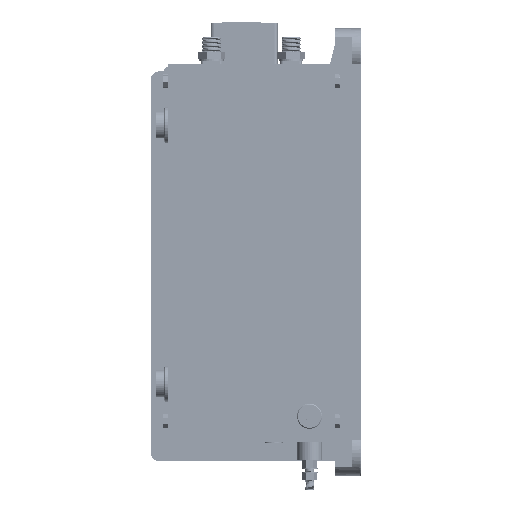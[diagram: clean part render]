
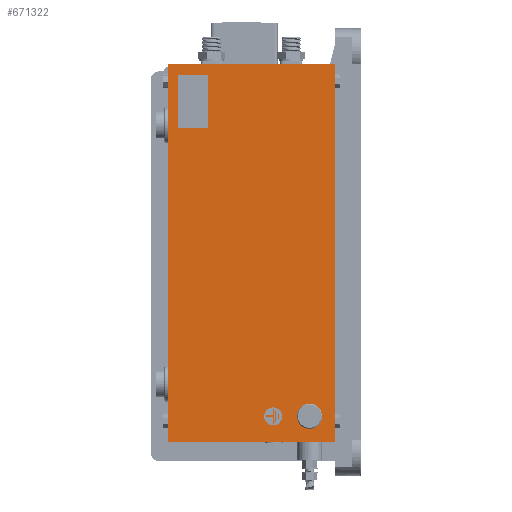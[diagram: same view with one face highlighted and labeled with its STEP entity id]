
A CAD part, left-side view. The second image highlights one B-rep face of the part: STEP entity #671322.
In plain terms, the highlighted planar face has unit normal (-1, 0, 0).
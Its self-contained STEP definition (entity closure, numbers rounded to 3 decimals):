
#8206 = EDGE_CURVE ( 'NONE', #46257, #184729, #476597, .T. ) ;
#46257 = VERTEX_POINT ( 'NONE', #291459 ) ;
#90911 = CARTESIAN_POINT ( 'NONE',  ( -452.168, 176.735, 124.712 ) ) ;
#106908 = EDGE_CURVE ( 'NONE', #490201, #184729, #157256, .T. ) ;
#116233 = VERTEX_POINT ( 'NONE', #462568 ) ;
#124880 = ORIENTED_EDGE ( 'NONE', *, *, #143902, .T. ) ;
#133929 = VECTOR ( 'NONE', #203411, 1000. ) ;
#143902 = EDGE_CURVE ( 'NONE', #490201, #116233, #508965, .T. ) ;
#148140 = VECTOR ( 'NONE', #336170, 1000. ) ;
#157256 = LINE ( 'NONE', #322371, #451703 ) ;
#184729 = VERTEX_POINT ( 'NONE', #787352 ) ;
#203252 = DIRECTION ( 'NONE',  ( 0., 0., 1. ) ) ;
#203411 = DIRECTION ( 'NONE',  ( 0., -1., 0. ) ) ;
#211159 = CARTESIAN_POINT ( 'NONE',  ( -452.168, -1.265, -295.288 ) ) ;
#266548 = AXIS2_PLACEMENT_3D ( 'NONE', #402470, #470694, #527073 ) ;
#271717 = CARTESIAN_POINT ( 'NONE',  ( -452.168, -1.265, -297.288 ) ) ;
#280696 = ORIENTED_EDGE ( 'NONE', *, *, #8206, .T. ) ;
#291459 = CARTESIAN_POINT ( 'NONE',  ( -452.168, -1.265, 124.712 ) ) ;
#320742 = ORIENTED_EDGE ( 'NONE', *, *, #407902, .T. ) ;
#322371 = CARTESIAN_POINT ( 'NONE',  ( -452.168, 184.735, 124.712 ) ) ;
#331282 = EDGE_LOOP ( 'NONE', ( #280696, #771123, #124880, #320742 ) ) ;
#336170 = DIRECTION ( 'NONE',  ( 0., 1., 0. ) ) ;
#402470 = CARTESIAN_POINT ( 'NONE',  ( -452.168, 334.735, 44.712 ) ) ;
#407902 = EDGE_CURVE ( 'NONE', #116233, #46257, #701683, .T. ) ;
#451703 = VECTOR ( 'NONE', #454925, 1000. ) ;
#454860 = FACE_OUTER_BOUND ( 'NONE', #331282, .T. ) ;
#454925 = DIRECTION ( 'NONE',  ( 0., 0., 1. ) ) ;
#462568 = CARTESIAN_POINT ( 'NONE',  ( -452.168, -1.265, -297.288 ) ) ;
#470694 = DIRECTION ( 'NONE',  ( 1., 0., 0. ) ) ;
#476597 = LINE ( 'NONE', #90911, #148140 ) ;
#490201 = VERTEX_POINT ( 'NONE', #757259 ) ;
#508965 = LINE ( 'NONE', #271717, #133929 ) ;
#527073 = DIRECTION ( 'NONE',  ( 0., 1., 0. ) ) ;
#598069 = VECTOR ( 'NONE', #203252, 1000. ) ;
#671322 = ADVANCED_FACE ( 'NONE', ( #454860 ), #704075, .F. ) ;
#701683 = LINE ( 'NONE', #211159, #598069 ) ;
#704075 = PLANE ( 'NONE',  #266548 ) ;
#757259 = CARTESIAN_POINT ( 'NONE',  ( -452.168, 184.735, -297.288 ) ) ;
#771123 = ORIENTED_EDGE ( 'NONE', *, *, #106908, .F. ) ;
#787352 = CARTESIAN_POINT ( 'NONE',  ( -452.168, 184.735, 124.712 ) ) ;
